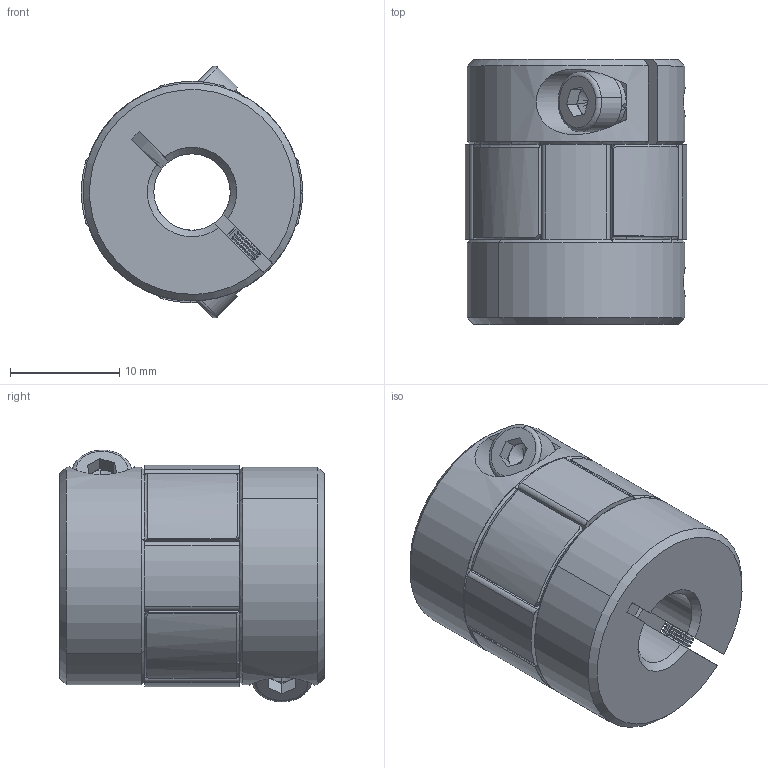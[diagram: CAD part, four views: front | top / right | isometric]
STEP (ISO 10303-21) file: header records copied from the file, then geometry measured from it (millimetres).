
FILE_DESCRIPTION (( 'STEP AP203' ), '1' );
FILE_NAME ('LF-B-D20L25-7-7.STEP', '2021-10-20T01:52:43', ( '' ), ( '' ), 'SwSTEP 2.0', 'SolidWorks 2018', '' );
FILE_SCHEMA (( 'CONFIG_CONTROL_DESIGN' ));
Length unit declared in the file: millimetre
Products named in the file (1): LF-B-D20L25-7-7
Bounding box: 20.31 x 24.3 x 23.09 mm (x, y, z)
Volume: 6447.3 mm3; surface area: 3559.5 mm2
Topology: 1 solids, 1 shells, 425 faces, 1062 edges, 629 vertices
Faces by surface type: cylinder 163, cone 158, plane 92, torus 12
Entity records: 13008 total; most frequent: CARTESIAN_POINT 2700, DIRECTION 2299, ORIENTED_EDGE 2116, EDGE_CURVE 1058, AXIS2_PLACEMENT_3D 946, VERTEX_POINT 629, CIRCLE 520, EDGE_LOOP 441
